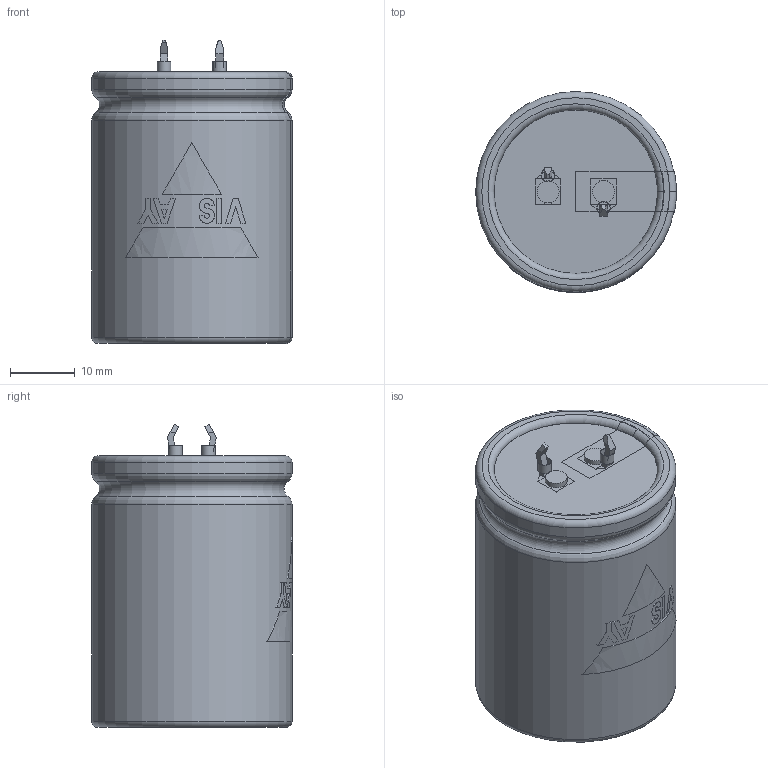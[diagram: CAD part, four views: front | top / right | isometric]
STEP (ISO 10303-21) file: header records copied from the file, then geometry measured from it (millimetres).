
FILE_DESCRIPTION(('FreeCAD Model'),'2;1');
FILE_NAME( 'C:/Users/Gebruiker/Documents/FreeCAD/SnapIn_30x40_2pin_4.0.step', '2020-11-12T20:24:02',('Author'),(''), 'Open CASCADE STEP processor 6.8','FreeCAD','Unknown');
FILE_SCHEMA(('AUTOMOTIVE_DESIGN_CC2 { 1 2 10303 214 -1 1 5 4 }'));
Length unit declared in the file: millimetre
Products named in the file (9): ASSEMBLY; TerminalMin; TerminalPlus; PCBHoles; Disc; BottomInsulation; Can3D; InkMinusBar; InkLogo
Assembly tree (8 placements, depth 2):
  ASSEMBLY
    TerminalMin
    TerminalPlus
    PCBHoles
    Disc
    BottomInsulation
    Can3D
    InkMinusBar
    InkLogo
Bounding box: 31.05 x 31.05 x 46.95 mm (x, y, z)
Volume: 35853.5 mm3; surface area: 13274 mm2
Topology: 15 solids, 15 shells, 180 faces, 450 edges, 299 vertices
Faces by surface type: plane 134, cylinder 28, torus 18
Full cylindrical faces by diameter (mm): 2 x2, 2.1 x2, 3.4 x2, 24.8 x2, 25.3 x1, 31 x2
Entity records: 19644 total; most frequent: CARTESIAN_POINT 9608, DIRECTION 1560, ORIENTED_EDGE 900, PCURVE 900, DEFINITIONAL_REPRESENTATION 900, LINE 868, VECTOR 868, EDGE_CURVE 450
